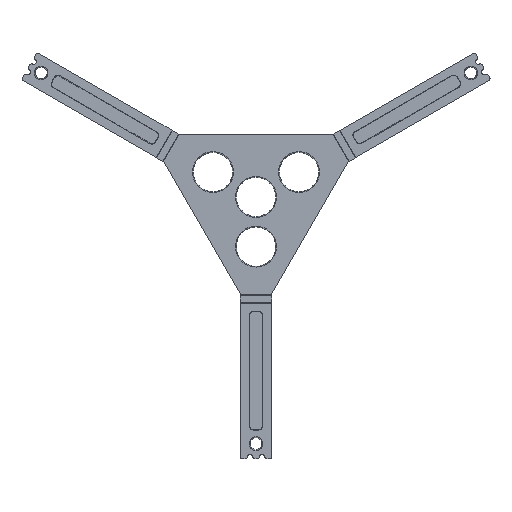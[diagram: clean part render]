
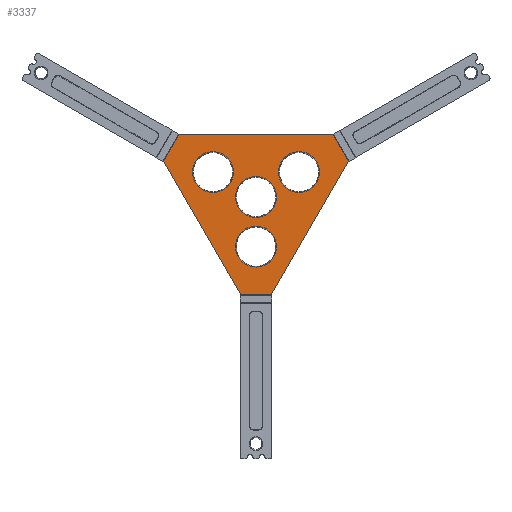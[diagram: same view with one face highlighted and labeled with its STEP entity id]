
A CAD part, front view. The second image highlights one B-rep face of the part: STEP entity #3337.
In plain terms, the highlighted planar face has unit normal (0, -1, 0).
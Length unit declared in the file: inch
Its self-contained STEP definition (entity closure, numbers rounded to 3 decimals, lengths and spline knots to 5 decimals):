
#198=CARTESIAN_POINT('',(0.,0.,0.));
#199=DIRECTION('',(0.,-1.,0.));
#200=DIRECTION('',(1.,0.,0.));
#201=AXIS2_PLACEMENT_3D('',#198,#199,#200);
#203=CARTESIAN_POINT('',(0.,0.,0.));
#204=DIRECTION('',(0.,-1.,0.));
#205=DIRECTION('',(-1.,0.,0.));
#206=AXIS2_PLACEMENT_3D('',#203,#204,#205);
#208=CARTESIAN_POINT('',(0.,0.,-0.365));
#209=DIRECTION('',(0.,-1.,0.));
#210=DIRECTION('',(1.,0.,0.));
#211=AXIS2_PLACEMENT_3D('',#208,#209,#210);
#213=CARTESIAN_POINT('',(0.,0.,-0.365));
#214=DIRECTION('',(0.,-1.,0.));
#215=DIRECTION('',(-1.,0.,0.));
#216=AXIS2_PLACEMENT_3D('',#213,#214,#215);
#218=CARTESIAN_POINT('',(0.3161,0.,0.1825));
#219=DIRECTION('',(0.,-1.,0.));
#220=DIRECTION('',(1.,0.,0.));
#221=AXIS2_PLACEMENT_3D('',#218,#219,#220);
#223=CARTESIAN_POINT('',(0.3161,0.,0.1825));
#224=DIRECTION('',(0.,-1.,0.));
#225=DIRECTION('',(-1.,0.,0.));
#226=AXIS2_PLACEMENT_3D('',#223,#224,#225);
#228=CARTESIAN_POINT('',(-0.3161,0.,0.1825));
#229=DIRECTION('',(0.,-1.,0.));
#230=DIRECTION('',(1.,0.,0.));
#231=AXIS2_PLACEMENT_3D('',#228,#229,#230);
#233=CARTESIAN_POINT('',(-0.3161,0.,0.1825));
#234=DIRECTION('',(0.,-1.,0.));
#235=DIRECTION('',(-1.,0.,0.));
#236=AXIS2_PLACEMENT_3D('',#233,#234,#235);
#238=DIRECTION('',(0.866,0.,0.5));
#239=VECTOR('',#238,0.00831);
#240=CARTESIAN_POINT('',(0.55778,0.,0.45631));
#241=LINE('',#240,#239);
#242=DIRECTION('',(-0.5,0.,0.866));
#243=VECTOR('',#242,0.23258);
#244=CARTESIAN_POINT('',(0.68127,0.,0.25905));
#245=LINE('',#244,#243);
#246=DIRECTION('',(-0.866,0.,-0.5));
#247=VECTOR('',#246,0.00831);
#248=CARTESIAN_POINT('',(0.68127,0.,0.25905));
#249=LINE('',#248,#247);
#250=DIRECTION('',(-0.5,0.,-0.866));
#251=VECTOR('',#250,1.11556);
#252=CARTESIAN_POINT('',(0.67407,0.,0.2549));
#253=LINE('',#252,#251);
#254=DIRECTION('',(0.,0.,-1.));
#255=VECTOR('',#254,0.00831);
#256=CARTESIAN_POINT('',(0.11629,0.,-0.71121));
#257=LINE('',#256,#255);
#258=DIRECTION('',(1.,0.,0.));
#259=VECTOR('',#258,0.23258);
#260=CARTESIAN_POINT('',(-0.11629,0.,-0.71952));
#261=LINE('',#260,#259);
#262=DIRECTION('',(0.,0.,1.));
#263=VECTOR('',#262,0.00831);
#264=CARTESIAN_POINT('',(-0.11629,0.,-0.71952));
#265=LINE('',#264,#263);
#266=DIRECTION('',(-0.5,0.,0.866));
#267=VECTOR('',#266,1.11556);
#268=CARTESIAN_POINT('',(-0.11629,0.,-0.71121));
#269=LINE('',#268,#267);
#270=DIRECTION('',(-0.866,0.,0.5));
#271=VECTOR('',#270,0.00831);
#272=CARTESIAN_POINT('',(-0.67407,0.,0.2549));
#273=LINE('',#272,#271);
#274=DIRECTION('',(0.5,0.,0.866));
#275=VECTOR('',#274,0.23258);
#276=CARTESIAN_POINT('',(-0.68127,0.,0.25905));
#277=LINE('',#276,#275);
#278=DIRECTION('',(0.866,0.,-0.5));
#279=VECTOR('',#278,0.00831);
#280=CARTESIAN_POINT('',(-0.56498,0.,0.46047));
#281=LINE('',#280,#279);
#282=DIRECTION('',(1.,0.,0.));
#283=VECTOR('',#282,1.11556);
#284=CARTESIAN_POINT('',(-0.55778,0.,0.45631));
#285=LINE('',#284,#283);
#2856=CARTESIAN_POINT('',(0.11629,0.,-0.71121));
#2857=CARTESIAN_POINT('',(0.11629,0.,-0.71952));
#2858=VERTEX_POINT('',#2856);
#2859=VERTEX_POINT('',#2857);
#2860=CARTESIAN_POINT('',(-0.11629,0.,-0.71952));
#2861=CARTESIAN_POINT('',(-0.11629,0.,-0.71121));
#2862=VERTEX_POINT('',#2860);
#2863=VERTEX_POINT('',#2861);
#2864=CARTESIAN_POINT('',(-0.67407,0.,0.2549));
#2865=CARTESIAN_POINT('',(-0.68127,0.,0.25905));
#2866=VERTEX_POINT('',#2864);
#2867=VERTEX_POINT('',#2865);
#2868=CARTESIAN_POINT('',(-0.56498,0.,0.46047));
#2869=CARTESIAN_POINT('',(-0.55778,0.,0.45631));
#2870=VERTEX_POINT('',#2868);
#2871=VERTEX_POINT('',#2869);
#2872=CARTESIAN_POINT('',(0.55778,0.,0.45631));
#2873=CARTESIAN_POINT('',(0.56498,0.,0.46047));
#2874=VERTEX_POINT('',#2872);
#2875=VERTEX_POINT('',#2873);
#2876=CARTESIAN_POINT('',(0.67407,0.,0.2549));
#2877=VERTEX_POINT('',#2876);
#2878=CARTESIAN_POINT('',(0.68127,0.,0.25905));
#2879=VERTEX_POINT('',#2878);
#3006=CARTESIAN_POINT('',(0.15,0.,0.));
#3007=CARTESIAN_POINT('',(-0.15,0.,0.));
#3008=VERTEX_POINT('',#3006);
#3009=VERTEX_POINT('',#3007);
#3034=CARTESIAN_POINT('',(0.15,0.,-0.365));
#3035=CARTESIAN_POINT('',(-0.15,0.,-0.365));
#3036=VERTEX_POINT('',#3034);
#3037=VERTEX_POINT('',#3035);
#3038=CARTESIAN_POINT('',(0.4661,0.,0.1825));
#3039=CARTESIAN_POINT('',(0.1661,0.,0.1825));
#3040=VERTEX_POINT('',#3038);
#3041=VERTEX_POINT('',#3039);
#3042=CARTESIAN_POINT('',(-0.1661,0.,0.1825));
#3043=CARTESIAN_POINT('',(-0.4661,0.,0.1825));
#3044=VERTEX_POINT('',#3042);
#3045=VERTEX_POINT('',#3043);
#3282=CARTESIAN_POINT('',(0.,0.,0.));
#3283=DIRECTION('',(0.,1.,0.));
#3284=DIRECTION('',(1.,0.,0.));
#3285=AXIS2_PLACEMENT_3D('',#3282,#3283,#3284);
#3286=PLANE('',#3285);
#3288=ORIENTED_EDGE('',*,*,#3287,.T.);
#3290=ORIENTED_EDGE('',*,*,#3289,.F.);
#3292=ORIENTED_EDGE('',*,*,#3291,.T.);
#3294=ORIENTED_EDGE('',*,*,#3293,.T.);
#3296=ORIENTED_EDGE('',*,*,#3295,.T.);
#3298=ORIENTED_EDGE('',*,*,#3297,.F.);
#3300=ORIENTED_EDGE('',*,*,#3299,.T.);
#3302=ORIENTED_EDGE('',*,*,#3301,.T.);
#3304=ORIENTED_EDGE('',*,*,#3303,.T.);
#3306=ORIENTED_EDGE('',*,*,#3305,.T.);
#3308=ORIENTED_EDGE('',*,*,#3307,.T.);
#3310=ORIENTED_EDGE('',*,*,#3309,.T.);
#3311=EDGE_LOOP('',(#3288,#3290,#3292,#3294,#3296,#3298,#3300,#3302,#3304,#3306,
#3308,#3310));
#3312=FACE_OUTER_BOUND('',#3311,.F.);
#3314=ORIENTED_EDGE('',*,*,#3313,.T.);
#3316=ORIENTED_EDGE('',*,*,#3315,.T.);
#3317=EDGE_LOOP('',(#3314,#3316));
#3318=FACE_BOUND('',#3317,.F.);
#3320=ORIENTED_EDGE('',*,*,#3319,.T.);
#3322=ORIENTED_EDGE('',*,*,#3321,.T.);
#3323=EDGE_LOOP('',(#3320,#3322));
#3324=FACE_BOUND('',#3323,.F.);
#3326=ORIENTED_EDGE('',*,*,#3325,.T.);
#3328=ORIENTED_EDGE('',*,*,#3327,.T.);
#3329=EDGE_LOOP('',(#3326,#3328));
#3330=FACE_BOUND('',#3329,.F.);
#3332=ORIENTED_EDGE('',*,*,#3331,.T.);
#3334=ORIENTED_EDGE('',*,*,#3333,.T.);
#3335=EDGE_LOOP('',(#3332,#3334));
#3336=FACE_BOUND('',#3335,.F.);
#3337=ADVANCED_FACE('',(#3312,#3318,#3324,#3330,#3336),#3286,.F.);
#202=CIRCLE('',#201,0.15);
#207=CIRCLE('',#206,0.15);
#212=CIRCLE('',#211,0.15);
#217=CIRCLE('',#216,0.15);
#222=CIRCLE('',#221,0.15);
#227=CIRCLE('',#226,0.15);
#232=CIRCLE('',#231,0.15);
#237=CIRCLE('',#236,0.15);
#3287=EDGE_CURVE('',#2874,#2875,#241,.T.);
#3289=EDGE_CURVE('',#2879,#2875,#245,.T.);
#3291=EDGE_CURVE('',#2879,#2877,#249,.T.);
#3293=EDGE_CURVE('',#2877,#2858,#253,.T.);
#3295=EDGE_CURVE('',#2858,#2859,#257,.T.);
#3297=EDGE_CURVE('',#2862,#2859,#261,.T.);
#3299=EDGE_CURVE('',#2862,#2863,#265,.T.);
#3301=EDGE_CURVE('',#2863,#2866,#269,.T.);
#3303=EDGE_CURVE('',#2866,#2867,#273,.T.);
#3305=EDGE_CURVE('',#2867,#2870,#277,.T.);
#3307=EDGE_CURVE('',#2870,#2871,#281,.T.);
#3309=EDGE_CURVE('',#2871,#2874,#285,.T.);
#3313=EDGE_CURVE('',#3008,#3009,#202,.T.);
#3315=EDGE_CURVE('',#3009,#3008,#207,.T.);
#3319=EDGE_CURVE('',#3036,#3037,#212,.T.);
#3321=EDGE_CURVE('',#3037,#3036,#217,.T.);
#3325=EDGE_CURVE('',#3040,#3041,#222,.T.);
#3327=EDGE_CURVE('',#3041,#3040,#227,.T.);
#3331=EDGE_CURVE('',#3044,#3045,#232,.T.);
#3333=EDGE_CURVE('',#3045,#3044,#237,.T.);
